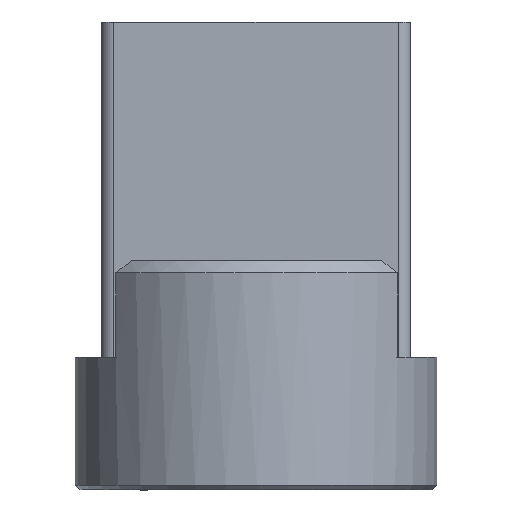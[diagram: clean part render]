
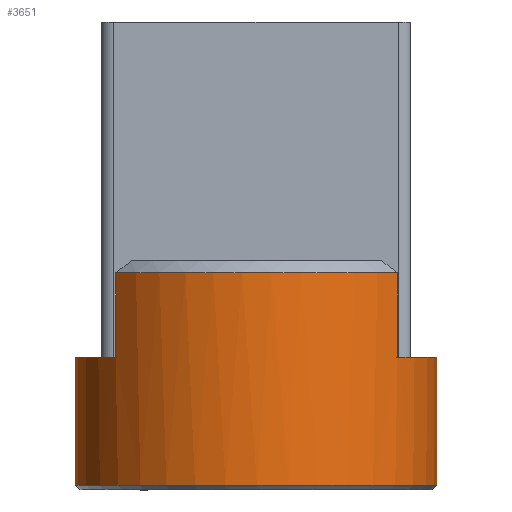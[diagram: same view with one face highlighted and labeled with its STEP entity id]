
A CAD part, front view. The second image highlights one B-rep face of the part: STEP entity #3651.
In plain terms, the highlighted cylindrical face has radius 7.5 mm (diameter 15 mm), a partial arc.
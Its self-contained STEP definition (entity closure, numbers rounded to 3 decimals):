
#1142 = DIRECTION ( 'NONE',  ( 0., 0., 1. ) ) ;
#1143 = VECTOR ( 'NONE', #1142, 1000. ) ;
#1144 = CARTESIAN_POINT ( 'NONE',  ( -17.771, 15.202, -10.1 ) ) ;
#1145 = LINE ( 'NONE', #1144, #1143 ) ;
#1147 = CARTESIAN_POINT ( 'NONE',  ( -17.771, 15.202, -4.6 ) ) ;
#1161 = VECTOR ( 'NONE', #1204, 1000. ) ;
#1162 = CARTESIAN_POINT ( 'NONE',  ( -32.771, 15.124, -10.1 ) ) ;
#1163 = LINE ( 'NONE', #1162, #1161 ) ;
#1181 = CARTESIAN_POINT ( 'NONE',  ( -32.771, 15.124, -9.9 ) ) ;
#1203 = CARTESIAN_POINT ( 'NONE',  ( -32.771, 15.124, -4.6 ) ) ;
#1204 = DIRECTION ( 'NONE',  ( 0., 0., 1. ) ) ;
#1236 = CARTESIAN_POINT ( 'NONE',  ( -17.771, 15.202, -9.9 ) ) ;
#1238 = CARTESIAN_POINT ( 'NONE',  ( -25.271, 15.163, -1.1 ) ) ;
#1243 = DIRECTION ( 'NONE',  ( -1., -0.005, 0. ) ) ;
#1244 = DIRECTION ( 'NONE',  ( 0., 0., -1. ) ) ;
#1245 = CARTESIAN_POINT ( 'NONE',  ( -25.271, 15.163, -4.6 ) ) ;
#1246 = AXIS2_PLACEMENT_3D ( 'NONE', #1245, #1244, #1243 ) ;
#1247 = CIRCLE ( 'NONE', #1246, 7.5 ) ;
#1248 = CARTESIAN_POINT ( 'NONE',  ( -31.092, 10.433, -4.6 ) ) ;
#1249 = CARTESIAN_POINT ( 'NONE',  ( -19.402, 10.493, -4.6 ) ) ;
#1283 = CARTESIAN_POINT ( 'NONE',  ( -19.402, 10.493, -1.1 ) ) ;
#1284 = DIRECTION ( 'NONE',  ( 1., 0.005, 0. ) ) ;
#1285 = DIRECTION ( 'NONE',  ( 0., 0., -1. ) ) ;
#1286 = AXIS2_PLACEMENT_3D ( 'NONE', #1238, #1285, #1284 ) ;
#1287 = CIRCLE ( 'NONE', #1286, 7.5 ) ;
#1292 = CARTESIAN_POINT ( 'NONE',  ( -31.092, 10.433, -1.1 ) ) ;
#1364 = DIRECTION ( 'NONE',  ( 0., 0., -1. ) ) ;
#1365 = VECTOR ( 'NONE', #1364, 1000. ) ;
#1366 = CARTESIAN_POINT ( 'NONE',  ( -31.092, 10.433, -0.6 ) ) ;
#1367 = LINE ( 'NONE', #1366, #1365 ) ;
#1368 = DIRECTION ( 'NONE',  ( 0., 0., -1. ) ) ;
#1369 = VECTOR ( 'NONE', #1368, 1000. ) ;
#1370 = CARTESIAN_POINT ( 'NONE',  ( -19.402, 10.493, -0.6 ) ) ;
#1371 = LINE ( 'NONE', #1370, #1369 ) ;
#1372 = DIRECTION ( 'NONE',  ( -1., -0.005, 0. ) ) ;
#1373 = DIRECTION ( 'NONE',  ( 0., 0., 1. ) ) ;
#1374 = CARTESIAN_POINT ( 'NONE',  ( -25.271, 15.163, -9.9 ) ) ;
#1375 = AXIS2_PLACEMENT_3D ( 'NONE', #1374, #1373, #1372 ) ;
#1376 = CIRCLE ( 'NONE', #1375, 7.5 ) ;
#1392 = FACE_OUTER_BOUND ( 'NONE', #3652, .T. ) ;
#1411 = DIRECTION ( 'NONE',  ( -1., -0.005, 0. ) ) ;
#1412 = DIRECTION ( 'NONE',  ( 0., 0., -1. ) ) ;
#1413 = AXIS2_PLACEMENT_3D ( 'NONE', #1420, #1412, #1411 ) ;
#1414 = CIRCLE ( 'NONE', #1413, 7.5 ) ;
#1416 = DIRECTION ( 'NONE',  ( 1., 0.005, 0. ) ) ;
#1417 = DIRECTION ( 'NONE',  ( 0., 0., 1. ) ) ;
#1418 = AXIS2_PLACEMENT_3D ( 'NONE', #1421, #1417, #1416 ) ;
#1419 = CYLINDRICAL_SURFACE ( 'NONE', #1418, 7.5 ) ;
#1420 = CARTESIAN_POINT ( 'NONE',  ( -25.271, 15.163, -4.6 ) ) ;
#1421 = CARTESIAN_POINT ( 'NONE',  ( -25.271, 15.163, -10.1 ) ) ;
#3548 = VERTEX_POINT ( 'NONE', #1147 ) ;
#3550 = EDGE_CURVE ( 'NONE', #3578, #3548, #1145, .T. ) ;
#3562 = EDGE_CURVE ( 'NONE', #3575, #3563, #1163, .T. ) ;
#3563 = VERTEX_POINT ( 'NONE', #1203 ) ;
#3575 = VERTEX_POINT ( 'NONE', #1181 ) ;
#3578 = VERTEX_POINT ( 'NONE', #1236 ) ;
#3591 = VERTEX_POINT ( 'NONE', #1249 ) ;
#3592 = VERTEX_POINT ( 'NONE', #1248 ) ;
#3594 = EDGE_CURVE ( 'NONE', #3548, #3591, #1247, .T. ) ;
#3601 = VERTEX_POINT ( 'NONE', #1292 ) ;
#3603 = EDGE_CURVE ( 'NONE', #3604, #3601, #1287, .T. ) ;
#3604 = VERTEX_POINT ( 'NONE', #1283 ) ;
#3630 = ORIENTED_EDGE ( 'NONE', *, *, #3562, .F. ) ;
#3631 = ORIENTED_EDGE ( 'NONE', *, *, #3632, .T. ) ;
#3632 = EDGE_CURVE ( 'NONE', #3575, #3578, #1376, .T. ) ;
#3633 = ORIENTED_EDGE ( 'NONE', *, *, #3550, .T. ) ;
#3634 = ORIENTED_EDGE ( 'NONE', *, *, #3594, .T. ) ;
#3635 = ORIENTED_EDGE ( 'NONE', *, *, #3636, .F. ) ;
#3636 = EDGE_CURVE ( 'NONE', #3604, #3591, #1371, .T. ) ;
#3637 = ORIENTED_EDGE ( 'NONE', *, *, #3603, .T. ) ;
#3638 = ORIENTED_EDGE ( 'NONE', *, *, #3639, .T. ) ;
#3639 = EDGE_CURVE ( 'NONE', #3601, #3592, #1367, .T. ) ;
#3640 = ORIENTED_EDGE ( 'NONE', *, *, #3654, .T. ) ;
#3651 = ADVANCED_FACE ( 'NONE', ( #1392 ), #1419, .T. ) ;
#3652 = EDGE_LOOP ( 'NONE', ( #3630, #3631, #3633, #3634, #3635, #3637, #3638, #3640 ) ) ;
#3654 = EDGE_CURVE ( 'NONE', #3592, #3563, #1414, .T. ) ;
